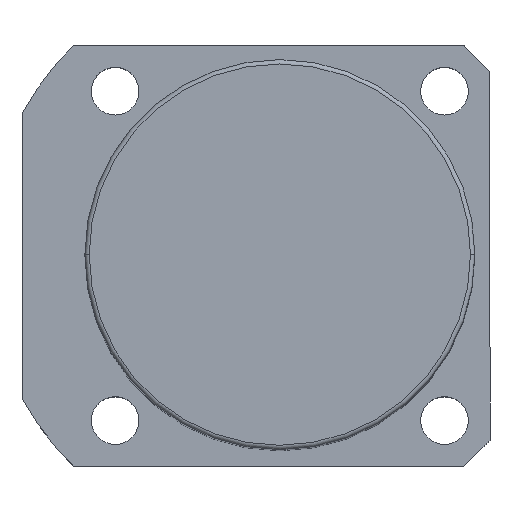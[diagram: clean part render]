
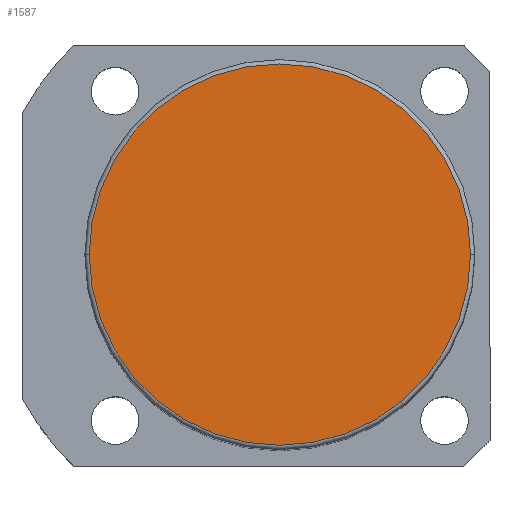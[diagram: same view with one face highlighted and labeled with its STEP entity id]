
A CAD part, top view. The second image highlights one B-rep face of the part: STEP entity #1587.
In plain terms, the highlighted planar face has unit normal (0, 0, 1).
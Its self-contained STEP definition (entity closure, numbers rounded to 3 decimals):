
#95 = DIRECTION ( 'NONE',  ( 0., 0., 1. ) ) ;
#305 = FACE_OUTER_BOUND ( 'NONE', #1616, .T. ) ;
#372 = ORIENTED_EDGE ( 'NONE', *, *, #1756, .T. ) ;
#380 = EDGE_CURVE ( 'NONE', #1030, #1669, #633, .T. ) ;
#554 = DIRECTION ( 'NONE',  ( 1., 0., 0. ) ) ;
#633 = CIRCLE ( 'NONE', #1777, 44. ) ;
#699 = ORIENTED_EDGE ( 'NONE', *, *, #380, .T. ) ;
#710 = CARTESIAN_POINT ( 'NONE',  ( 0., 0., 181.5 ) ) ;
#801 = CARTESIAN_POINT ( 'NONE',  ( 0., 0., 181.5 ) ) ;
#976 = CARTESIAN_POINT ( 'NONE',  ( 44., 0., 181.5 ) ) ;
#991 = CIRCLE ( 'NONE', #1322, 44. ) ;
#1030 = VERTEX_POINT ( 'NONE', #1449 ) ;
#1114 = PLANE ( 'NONE',  #1255 ) ;
#1118 = DIRECTION ( 'NONE',  ( 1., 0., 0. ) ) ;
#1255 = AXIS2_PLACEMENT_3D ( 'NONE', #801, #1738, #1886 ) ;
#1273 = DIRECTION ( 'NONE',  ( 0., 0., 1. ) ) ;
#1322 = AXIS2_PLACEMENT_3D ( 'NONE', #710, #95, #554 ) ;
#1449 = CARTESIAN_POINT ( 'NONE',  ( -44., 0., 181.5 ) ) ;
#1587 = ADVANCED_FACE ( 'NONE', ( #305 ), #1114, .T. ) ;
#1616 = EDGE_LOOP ( 'NONE', ( #372, #699 ) ) ;
#1669 = VERTEX_POINT ( 'NONE', #976 ) ;
#1736 = CARTESIAN_POINT ( 'NONE',  ( 0., 0., 181.5 ) ) ;
#1738 = DIRECTION ( 'NONE',  ( 0., 0., 1. ) ) ;
#1756 = EDGE_CURVE ( 'NONE', #1669, #1030, #991, .T. ) ;
#1777 = AXIS2_PLACEMENT_3D ( 'NONE', #1736, #1273, #1118 ) ;
#1886 = DIRECTION ( 'NONE',  ( 1., 0., 0. ) ) ;
